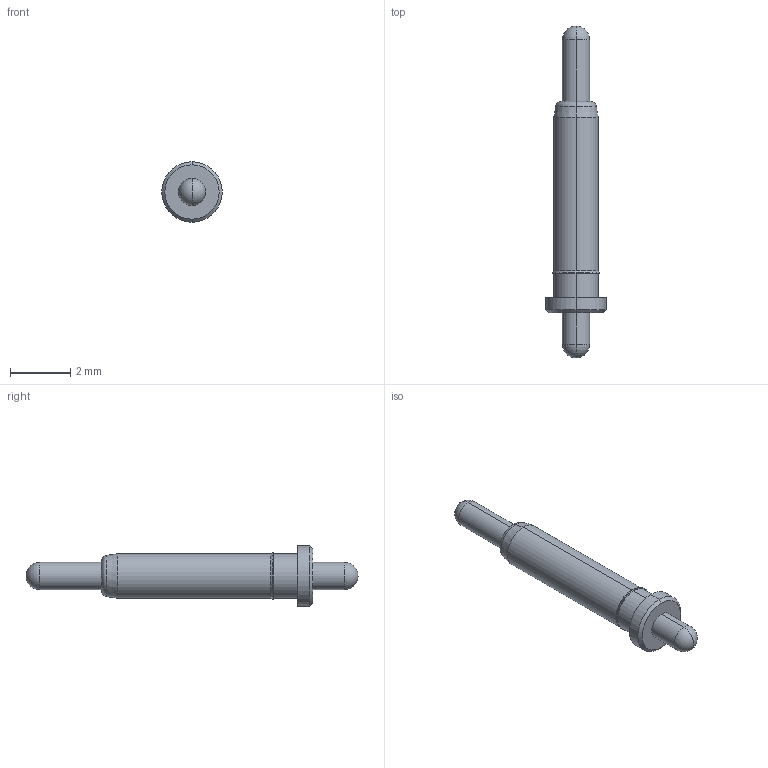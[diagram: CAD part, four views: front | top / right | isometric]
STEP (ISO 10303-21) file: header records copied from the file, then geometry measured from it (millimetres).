
FILE_DESCRIPTION((''),'2;1');
FILE_NAME('NC1678-01PA','2022-05-19T10:28:38',('Administrator'),(''),'CREO PARAMETRIC BY PTC INC, 2018400','CREO PARAMETRIC BY PTC INC, 2018400','');
FILE_SCHEMA(('CONFIG_CONTROL_DESIGN'));
Length unit declared in the file: millimetre
Products named in the file (1): NC1678-01PA
Bounding box: 2 x 11 x 2 mm (x, y, z)
Volume: 14.9 mm3; surface area: 48.7 mm2
Topology: 1 solids, 1 shells, 28 faces, 58 edges, 32 vertices
Faces by surface type: cylinder 12, cone 6, sphere 4, plane 4, torus 2
Entity records: 756 total; most frequent: DIRECTION 146, CARTESIAN_POINT 114, ORIENTED_EDGE 108, AXIS2_PLACEMENT_3D 64, EDGE_CURVE 54, CIRCLE 36, VERTEX_POINT 32, EDGE_LOOP 32
